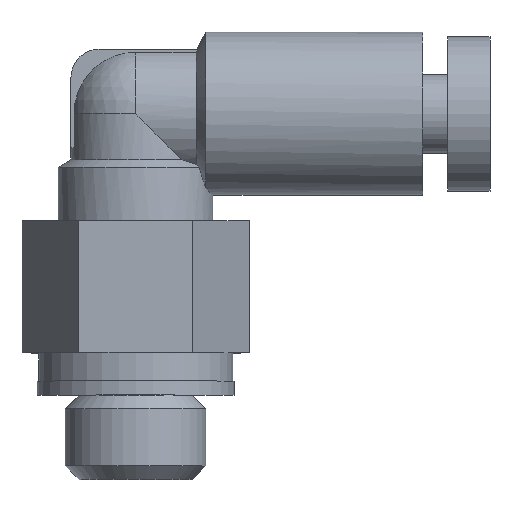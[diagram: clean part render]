
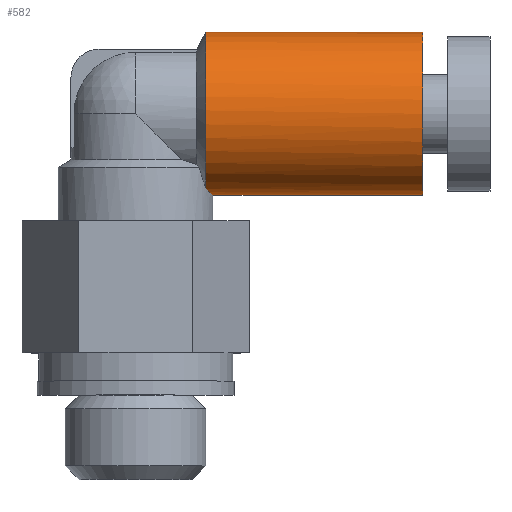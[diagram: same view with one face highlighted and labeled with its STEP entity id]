
A CAD part, top view. The second image highlights one B-rep face of the part: STEP entity #582.
In plain terms, the highlighted cylindrical face has radius 2.9 mm (diameter 5.8 mm), a full revolution.
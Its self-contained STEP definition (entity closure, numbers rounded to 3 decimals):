
#54=B_SPLINE_CURVE_WITH_KNOTS('',3,(#941,#942,#943,#944,#945),
 .UNSPECIFIED.,.F.,.F.,(4,1,4),(0.002,0.003,
0.004),.UNSPECIFIED.);
#222=ORIENTED_EDGE('',*,*,#329,.F.);
#223=ORIENTED_EDGE('',*,*,#292,.T.);
#224=ORIENTED_EDGE('',*,*,#299,.T.);
#292=EDGE_CURVE('',#366,#365,#412,.T.);
#299=EDGE_CURVE('',#365,#366,#54,.T.);
#329=EDGE_CURVE('',#390,#390,#425,.T.);
#365=VERTEX_POINT('',#916);
#366=VERTEX_POINT('',#918);
#390=VERTEX_POINT('',#1016);
#412=CIRCLE('',#625,2.9);
#425=CIRCLE('',#659,2.9);
#468=EDGE_LOOP('',(#222));
#469=EDGE_LOOP('',(#223,#224));
#524=FACE_BOUND('',#468,.T.);
#525=FACE_BOUND('',#469,.T.);
#553=CYLINDRICAL_SURFACE('',#658,2.9);
#582=ADVANCED_FACE('',(#524,#525),#553,.T.);
#625=AXIS2_PLACEMENT_3D('',#917,#717,#718);
#658=AXIS2_PLACEMENT_3D('',#1014,#802,#803);
#659=AXIS2_PLACEMENT_3D('',#1015,#804,#805);
#717=DIRECTION('',(1.,0.,0.));
#718=DIRECTION('',(0.,0.,-1.));
#802=DIRECTION('',(1.,0.,0.));
#803=DIRECTION('',(0.,0.,-1.));
#804=DIRECTION('',(1.,0.,0.));
#805=DIRECTION('',(0.,0.,-1.));
#916=CARTESIAN_POINT('',(2.5,7.336,1.146));
#917=CARTESIAN_POINT('',(2.5,10.,0.));
#918=CARTESIAN_POINT('',(2.5,7.336,-1.146));
#941=CARTESIAN_POINT('',(2.5,7.336,1.146));
#942=CARTESIAN_POINT('',(2.656,7.189,0.805));
#943=CARTESIAN_POINT('',(2.843,7.011,0.002));
#944=CARTESIAN_POINT('',(2.657,7.188,-0.803));
#945=CARTESIAN_POINT('',(2.5,7.336,-1.146));
#1014=CARTESIAN_POINT('',(12.6,10.,0.));
#1015=CARTESIAN_POINT('',(10.2,10.,0.));
#1016=CARTESIAN_POINT('',(10.2,10.,-2.9));
